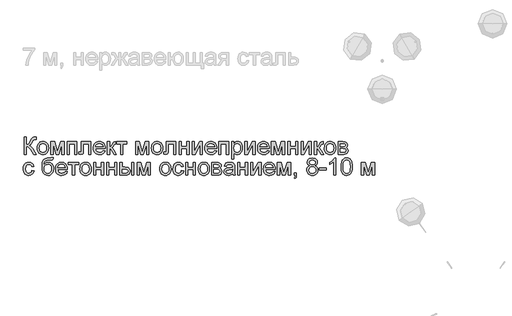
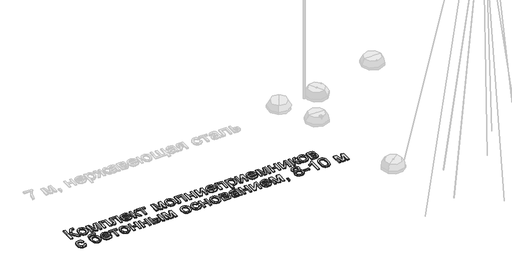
# One storey, part 41 of 124: 1 proxy.
"""IFC4 building model written with IfcOpenShell, lengths in millimetres."""

from ifc_helpers import new_model, si_unit, origin, origin_with_axes, place, context, project, spatial, polyline, outline, extrude, element, save

model = new_model("IFC4")

# Units and contexts
model_context = context("Model", 3, world=origin())
ifc_project = project(units=[si_unit("LENGTHUNIT", "METRE", prefix="MILLI")], contexts=[model_context])

# Site, building, storey
site = spatial("IfcSite", under=ifc_project)
building = spatial("IfcBuilding", under=site)
storey = spatial("IfcBuildingStorey", under=building, Name="Этаж 01", Elevation=0.0)

# Proxy
placement = place(None, origin())
element("IfcBuildingElementProxy", 1, Name="300", ObjectType="300", at=placement, inside=storey, context=model_context, shape_type="SweptSolid", body=[
    extrude(outline(polyline([(10399.8220677, -66773.1294316), (10437.493184, -66773.1294316), (10437.493184, -66904.9783386), (10462.9966033, -66902.4859381), (10479.6156724, -66895.0087366), (10493.0525623, -66877.4147801), (10509.0094439, -66844.572115), (10529.7947766, -66802.4496266), (10539.819561, -66791.0360877), (10553.3392243, -66781.5907174), (10569.3880763, -66775.244753), (10587.0004268, -66773.1294316), (10611.7220969, -66773.5708899), (10611.7220969, -66811.2420063), (10603.4079638, -66811.0212771), (10595.0938307, -66810.8005479), (10577.8401652, -66813.0630221), (10565.6632711, -66819.8504449), (10555.1786343, -66834.1058723), (10543.2960458, -66858.6252072), (10528.7187218, -66889.1594128), (10516.6246012, -66905.8612554), (10490.6153441, -66921.459452), (10505.2064637, -66927.6674607), (10519.6964158, -66938.4923884), (10548.3728173, -66973.9930009), (10611.7220969, -67074.498362), (10568.0177159, -67074.498362), (10514.4540974, -66989.5911975), (10493.7699322, -66962.3587328), (10476.7461929, -66945.2614171), (10459.3361775, -66936.2391112), (10437.493184, -66933.2316759), (10437.493184, -67074.498362), (10399.8220677, -67074.498362), (10399.8220677, -66773.1294316)])), origin_with_axes(), (0.0, 0.0, 1.0), 20.0),
    extrude(outline(polyline([(10630.5576551, -66963.8394579), (10632.5948016, -66935.1768519), (10638.7062413, -66910.4781745), (10648.891974, -66889.7434255), (10663.1519998, -66872.972605), (10677.5085947, -66862.2534434), (10693.3551116, -66854.5968994), (10710.6915507, -66850.002973), (10729.5179118, -66848.4716642), (10750.3009452, -66850.336366), (10769.0928174, -66855.9304716), (10785.8935283, -66865.2539809), (10800.7030778, -66878.306894), (10812.7903006, -66894.6477523), (10821.4240312, -66913.8350977), (10826.6042696, -66935.8689299), (10828.3310157, -66960.7492491), (10825.2775951, -66998.8066415), (10816.1173334, -67027.7773486), (10801.1169451, -67049.4731893), (10780.5431445, -67065.7059823), (10756.106583, -67075.8319342), (10729.5179118, -67079.2072515), (10708.4313757, -67077.3494475), (10689.4647595, -67071.7760352), (10672.6180634, -67062.4870149), (10657.8912873, -67049.4823863), (10645.9328232, -67032.9828788), (10637.3910631, -67013.2092216), (10632.2660071, -66990.1614146), (10630.5576551, -66963.8394579)]), holes=[polyline([(10668.2287714, -66963.7658815), (10672.588173, -66997.8593454), (10685.6663779, -67022.1487541), (10705.3480647, -67036.6892899), (10729.5179118, -67041.5361352), (10753.5773943, -67036.6616988), (10773.2222928, -67022.0383895), (10786.3004977, -66997.427084), (10790.6598994, -66962.5886591), (10786.2729066, -66929.4884766), (10773.1119282, -66905.5301616), (10753.4394385, -66890.9896258), (10729.5179118, -66886.1427805), (10705.3480647, -66890.9712317), (10685.6663779, -66905.4565852), (10672.588173, -66929.6908117), (10668.2287714, -66963.7658815)])]), origin_with_axes(), (0.0, 0.0, 1.0), 20.0),
    extrude(outline(polyline([(10870.7110215, -66853.1805537), (10935.5318291, -66853.1805537), (10985.490204, -67030.3525226), (11039.3481281, -66853.1805537), (11101.4466089, -66853.1805537), (11101.4466089, -67074.498362), (11063.7754926, -67074.498362), (11063.7754926, -66896.2963235), (11009.6232629, -67074.498362), (10960.1799227, -67074.498362), (10908.3821378, -66887.7614613), (10908.3821378, -67074.498362), (10870.7110215, -67074.498362), (10870.7110215, -66853.1805537)])), origin_with_axes(), (0.0, 0.0, 1.0), 20.0),
    extrude(outline(polyline([(11157.9532834, -66853.1805537), (11327.4733067, -66853.1805537), (11327.4733067, -67074.498362), (11289.8021904, -67074.498362), (11289.8021904, -66890.85167), (11195.6243997, -66890.85167), (11195.6243997, -67074.498362), (11157.9532834, -67074.498362), (11157.9532834, -66853.1805537)])), origin_with_axes(), (0.0, 0.0, 1.0), 20.0),
    extrude(outline(polyline([(11402.8155393, -66853.1805537), (11572.3355627, -66853.1805537), (11572.3355627, -67074.2776328), (11534.6644464, -67074.2776328), (11534.6644464, -66890.85167), (11440.4866556, -66890.85167), (11440.4866556, -66996.4338026), (11437.9482699, -67045.1413788), (11433.1933951, -67056.1686416), (11424.0055423, -67065.7059823), (11410.0628146, -67072.3002671), (11391.0433155, -67074.498362), (11360.4355335, -67072.5853756), (11360.4355335, -67036.8272457), (11377.2845289, -67036.8272457), (11394.3174653, -67034.5095891), (11401.1232822, -67027.1519492), (11402.8155393, -66994.3000871), (11402.8155393, -66853.1805537)])), origin_with_axes(), (0.0, 0.0, 1.0), 20.0),
    extrude(outline(polyline([(11783.7941335, -67008.5739085), (11820.7294859, -67013.282798), (11807.4213547, -67041.1130709), (11786.1853665, -67061.9167978), (11757.4997679, -67074.8846381), (11721.8428056, -67079.2072515), (11698.4685033, -67077.3425497), (11677.6417838, -67071.7484441), (11659.3626472, -67062.4249348), (11643.6310934, -67049.3720217), (11630.9805513, -67032.9529884), (11621.9444498, -67013.5311184), (11616.5227889, -66991.1064115), (11614.7155686, -66965.6788678), (11616.541183, -66939.3891007), (11622.0180262, -66916.2171336), (11631.1460982, -66896.1629663), (11643.925399, -66879.226599), (11659.6155661, -66865.771315), (11677.4762369, -66856.1603979), (11697.5074116, -66850.3938476), (11719.70909, -66848.4716642), (11741.1956978, -66850.3892491), (11760.6267649, -66856.1420038), (11778.0022914, -66865.7299283), (11793.3222772, -66879.1530226), (11805.8279658, -66896.0526017), (11814.7606005, -66916.0699808), (11820.1201813, -66939.2051598), (11821.9067082, -66965.4581386), (11821.6859791, -66975.6116817), (11652.3866849, -66975.6116817), (11658.9073932, -67003.8098366), (11674.0549344, -67024.5399871), (11695.916322, -67037.2870982), (11722.5785696, -67041.5361352), (11742.6281383, -67039.5679666), (11759.5139219, -67033.6634605), (11773.2359203, -67023.4547352), (11783.7941335, -67008.5739085)]), holes=[polyline([(11652.3866849, -66937.9405654), (11784.2355919, -66937.9405654), (11779.1404263, -66918.0381495), (11769.1524301, -66903.8011162), (11747.189875, -66890.5573644), (11719.5619372, -66886.1427805), (11694.1688825, -66889.6652506), (11673.1720176, -66900.2326609), (11658.5762994, -66916.7045772), (11652.3866849, -66937.9405654)])]), origin_with_axes(), (0.0, 0.0, 1.0), 20.0),
    extrude(outline(polyline([(11859.5778246, -66853.1805537), (11897.2489409, -66853.1805537), (11897.2489409, -66947.3583445), (11912.571226, -66945.6660873), (11922.4856457, -66940.5893158), (11931.2596313, -66927.3455639), (11943.1606139, -66901.1523659), (11960.340703, -66867.1232813), (11975.4974412, -66856.0500333), (12003.0518027, -66853.1805537), (12010.2622898, -66853.1805537), (12010.2622898, -66891.0723992), (12000.1087467, -66890.85167), (11981.714647, -66894.8247956), (11968.7652007, -66919.620042), (11953.5716743, -66946.4386395), (11932.2713068, -66959.5720267), (11944.2090775, -66964.874126), (11956.0364837, -66974.2321242), (11979.3602022, -67005.1158177), (12019.6800689, -67074.498362), (11976.8586046, -67074.498362), (11937.3480783, -67006.5873457), (11917.4824506, -66977.8557619), (11908.1934302, -66972.6410346), (11897.2489409, -66970.9027922), (11897.2489409, -67074.498362), (11859.5778246, -67074.498362), (11859.5778246, -66853.1805537)])), origin_with_axes(), (0.0, 0.0, 1.0), 20.0),
    extrude(outline(polyline([(12024.3889584, -66853.1805537), (12203.3267608, -66853.1805537), (12203.3267608, -66890.85167), (12132.6934178, -66890.85167), (12132.6934178, -67074.498362), (12095.0223015, -67074.498362), (12095.0223015, -66890.85167), (12024.3889584, -66890.85167), (12024.3889584, -66853.1805537)])), origin_with_axes(), (0.0, 0.0, 1.0), 20.0),
    extrude(outline(polyline([(12354.0112261, -66853.1805537), (12418.8320336, -66853.1805537), (12468.7904086, -67030.3525226), (12522.6483327, -66853.1805537), (12584.7468134, -66853.1805537), (12584.7468134, -67074.498362), (12547.0756971, -67074.498362), (12547.0756971, -66896.2963235), (12492.9234675, -67074.498362), (12443.4801273, -67074.498362), (12391.6823424, -66887.7614613), (12391.6823424, -67074.498362), (12354.0112261, -67074.498362), (12354.0112261, -66853.1805537)])), origin_with_axes(), (0.0, 0.0, 1.0), 20.0),
    extrude(outline(polyline([(12631.8357088, -66963.8394579), (12633.8728554, -66935.1768519), (12639.984295, -66910.4781745), (12650.1700278, -66889.7434255), (12664.4300536, -66872.972605), (12678.7866485, -66862.2534434), (12694.6331654, -66854.5968994), (12711.9696044, -66850.002973), (12730.7959655, -66848.4716642), (12751.578999, -66850.336366), (12770.3708712, -66855.9304716), (12787.171582, -66865.2539809), (12801.9811316, -66878.306894), (12814.0683544, -66894.6477523), (12822.702085, -66913.8350977), (12827.8823233, -66935.8689299), (12829.6090694, -66960.7492491), (12826.5556489, -66998.8066415), (12817.3953872, -67027.7773486), (12802.3949988, -67049.4731893), (12781.8211983, -67065.7059823), (12757.3846367, -67075.8319342), (12730.7959655, -67079.2072515), (12709.7094294, -67077.3494475), (12690.7428133, -67071.7760352), (12673.8961172, -67062.4870149), (12659.1693411, -67049.4823863), (12647.210877, -67032.9828788), (12638.6691169, -67013.2092216), (12633.5440608, -66990.1614146), (12631.8357088, -66963.8394579)]), holes=[polyline([(12669.5068251, -66963.7658815), (12673.8662268, -66997.8593454), (12686.9444317, -67022.1487541), (12706.6261184, -67036.6892899), (12730.7959655, -67041.5361352), (12754.855448, -67036.6616988), (12774.5003466, -67022.0383895), (12787.5785515, -66997.427084), (12791.9379531, -66962.5886591), (12787.5509603, -66929.4884766), (12774.389982, -66905.5301616), (12754.7174923, -66890.9896258), (12730.7959655, -66886.1427805), (12706.6261184, -66890.9712317), (12686.9444317, -66905.4565852), (12673.8662268, -66929.6908117), (12669.5068251, -66963.7658815)])]), origin_with_axes(), (0.0, 0.0, 1.0), 20.0),
    extrude(outline(polyline([(12890.8246334, -66853.1805537), (13060.3446568, -66853.1805537), (13060.3446568, -67074.2776328), (13022.6735405, -67074.2776328), (13022.6735405, -66890.85167), (12928.4957497, -66890.85167), (12928.4957497, -66996.4338026), (12925.957364, -67045.1413788), (12921.2024892, -67056.1686416), (12912.0146364, -67065.7059823), (12898.0719087, -67072.3002671), (12879.0524096, -67074.498362), (12848.4446276, -67072.5853756), (12848.4446276, -67036.8272457), (12865.293623, -67036.8272457), (12882.3265593, -67034.5095891), (12889.1323763, -67027.1519492), (12890.8246334, -66994.3000871), (12890.8246334, -66853.1805537)])), origin_with_axes(), (0.0, 0.0, 1.0), 20.0),
    extrude(outline(polyline([(13116.8513313, -66853.1805537), (13154.5224476, -66853.1805537), (13154.5224476, -66937.9405654), (13253.4091279, -66937.9405654), (13253.4091279, -66853.1805537), (13291.0802442, -66853.1805537), (13291.0802442, -67074.498362), (13253.4091279, -67074.498362), (13253.4091279, -66975.6116817), (13154.5224476, -66975.6116817), (13154.5224476, -67074.498362), (13116.8513313, -67074.498362), (13116.8513313, -66853.1805537)])), origin_with_axes(), (0.0, 0.0, 1.0), 20.0),
    extrude(outline(polyline([(13347.5869186, -66853.1805537), (13385.258035, -66853.1805537), (13385.258035, -67021.9648131), (13477.8171449, -66853.1805537), (13526.5247211, -66853.1805537), (13526.5247211, -67074.498362), (13488.8536048, -67074.498362), (13488.8536048, -66906.7441722), (13396.883106, -67074.498362), (13347.5869186, -67074.498362), (13347.5869186, -66853.1805537)])), origin_with_axes(), (0.0, 0.0, 1.0), 20.0),
    extrude(outline(polyline([(13737.9832919, -67008.5739085), (13774.9186442, -67013.282798), (13761.6105131, -67041.1130709), (13740.3745249, -67061.9167978), (13711.6889263, -67074.8846381), (13676.0319639, -67079.2072515), (13652.6576617, -67077.3425497), (13631.8309422, -67071.7484441), (13613.5518056, -67062.4249348), (13597.8202518, -67049.3720217), (13585.1697097, -67032.9529884), (13576.1336081, -67013.5311184), (13570.7119472, -66991.1064115), (13568.9047269, -66965.6788678), (13570.7303413, -66939.3891007), (13576.2071845, -66916.2171336), (13585.3352566, -66896.1629663), (13598.1145574, -66879.226599), (13613.8047245, -66865.771315), (13631.6653953, -66856.1603979), (13651.69657, -66850.3938476), (13673.8982484, -66848.4716642), (13695.3848561, -66850.3892491), (13714.8159233, -66856.1420038), (13732.1914498, -66865.7299283), (13747.5114356, -66879.1530226), (13760.0171242, -66896.0526017), (13768.9497589, -66916.0699808), (13774.3093397, -66939.2051598), (13776.0958666, -66965.4581386), (13775.8751374, -66975.6116817), (13606.5758433, -66975.6116817), (13613.0965516, -67003.8098366), (13628.2440928, -67024.5399871), (13650.1054803, -67037.2870982), (13676.7677279, -67041.5361352), (13696.8172967, -67039.5679666), (13713.7030802, -67033.6634605), (13727.4250787, -67023.4547352), (13737.9832919, -67008.5739085)]), holes=[polyline([(13606.5758433, -66937.9405654), (13738.4247503, -66937.9405654), (13733.3295847, -66918.0381495), (13723.3415885, -66903.8011162), (13701.3790334, -66890.5573644), (13673.7510956, -66886.1427805), (13648.3580409, -66889.6652506), (13627.361176, -66900.2326609), (13612.7654578, -66916.7045772), (13606.5758433, -66937.9405654)])]), origin_with_axes(), (0.0, 0.0, 1.0), 20.0),
    extrude(outline(polyline([(13813.7669829, -66853.1805537), (13983.2870063, -66853.1805537), (13983.2870063, -67074.498362), (13945.61589, -67074.498362), (13945.61589, -66890.85167), (13851.4380992, -66890.85167), (13851.4380992, -67074.498362), (13813.7669829, -67074.498362), (13813.7669829, -66853.1805537)])), origin_with_axes(), (0.0, 0.0, 1.0), 20.0),
    extrude(outline(polyline([(14039.7936808, -67159.2583737), (14039.7936808, -66853.1805537), (14077.4647971, -66853.1805537), (14077.4647971, -66890.115906), (14089.7520557, -66871.8965502), (14103.5108423, -66858.8827246), (14119.5504973, -66851.0744293), (14138.6803611, -66848.4716642), (14164.1561892, -66852.1136959), (14186.431444, -66863.0397912), (14204.5680264, -66880.5877623), (14217.6278372, -66904.0954218), (14225.518906, -66931.8521184), (14228.1492623, -66962.1472007), (14225.1786152, -66994.3644664), (14216.2666739, -67023.1788237), (14201.6985468, -67047.1279416), (14181.7593427, -67064.7494891), (14158.5367918, -67075.5928109), (14134.1186243, -67079.2072515), (14116.8005794, -67076.7884274), (14101.3403386, -67069.5319551), (14088.1057838, -67058.5782687), (14077.4647971, -67045.0678024), (14077.4647971, -67159.2583737), (14039.7936808, -67159.2583737)]), holes=[polyline([(14077.4647971, -66965.6052914), (14081.5390902, -66999.3768586), (14093.7619695, -67022.9948827), (14111.7973843, -67036.9008221), (14133.3092839, -67041.5361352), (14155.1706715, -67036.7352752), (14173.6659388, -67022.3326951), (14186.2750942, -66997.8501483), (14190.478146, -66962.8093883), (14186.3762617, -66929.2217621), (14174.070609, -66905.2726442), (14156.0627853, -66890.9252464), (14134.8543883, -66886.1427805), (14113.5632179, -66891.2287491), (14094.8656154, -66906.4866548), (14081.8150017, -66931.4382511), (14077.4647971, -66965.6052914)])]), origin_with_axes(), (0.0, 0.0, 1.0), 20.0),
    extrude(outline(polyline([(14270.5292681, -66853.1805537), (14308.2003845, -66853.1805537), (14308.2003845, -67021.9648131), (14400.7594944, -66853.1805537), (14449.4670706, -66853.1805537), (14449.4670706, -67074.498362), (14411.7959543, -67074.498362), (14411.7959543, -66906.7441722), (14319.8254555, -67074.498362), (14270.5292681, -67074.498362), (14270.5292681, -66853.1805537)])), origin_with_axes(), (0.0, 0.0, 1.0), 20.0),
    extrude(outline(polyline([(14660.9256414, -67008.5739085), (14697.8609937, -67013.282798), (14684.5528626, -67041.1130709), (14663.3168744, -67061.9167978), (14634.6312758, -67074.8846381), (14598.9743134, -67079.2072515), (14575.6000112, -67077.3425497), (14554.7732917, -67071.7484441), (14536.4941551, -67062.4249348), (14520.7626013, -67049.3720217), (14508.1120592, -67032.9529884), (14499.0759576, -67013.5311184), (14493.6542967, -66991.1064115), (14491.8470764, -66965.6788678), (14493.6726908, -66939.3891007), (14499.149534, -66916.2171336), (14508.2776061, -66896.1629663), (14521.0569069, -66879.226599), (14536.747074, -66865.771315), (14554.6077448, -66856.1603979), (14574.6389195, -66850.3938476), (14596.8405979, -66848.4716642), (14618.3272056, -66850.3892491), (14637.7582728, -66856.1420038), (14655.1337993, -66865.7299283), (14670.4537851, -66879.1530226), (14682.9594737, -66896.0526017), (14691.8921084, -66916.0699808), (14697.2516892, -66939.2051598), (14699.0382161, -66965.4581386), (14698.8174869, -66975.6116817), (14529.5181928, -66975.6116817), (14536.0389011, -67003.8098366), (14551.1864423, -67024.5399871), (14573.0478298, -67037.2870982), (14599.7100774, -67041.5361352), (14619.7596462, -67039.5679666), (14636.6454297, -67033.6634605), (14650.3674282, -67023.4547352), (14660.9256414, -67008.5739085)]), holes=[polyline([(14529.5181928, -66937.9405654), (14661.3670998, -66937.9405654), (14656.2719342, -66918.0381495), (14646.283938, -66903.8011162), (14624.3213829, -66890.5573644), (14596.6934451, -66886.1427805), (14571.3003904, -66889.6652506), (14550.3035255, -66900.2326609), (14535.7078073, -66916.7045772), (14529.5181928, -66937.9405654)])]), origin_with_axes(), (0.0, 0.0, 1.0), 20.0),
    extrude(outline(polyline([(14736.7093324, -66853.1805537), (14801.53014, -66853.1805537), (14851.4885149, -67030.3525226), (14905.346439, -66853.1805537), (14967.4449198, -66853.1805537), (14967.4449198, -67074.498362), (14929.7738035, -67074.498362), (14929.7738035, -66896.2963235), (14875.6215738, -67074.498362), (14826.1782337, -67074.498362), (14774.3804487, -66887.7614613), (14774.3804487, -67074.498362), (14736.7093324, -67074.498362), (14736.7093324, -66853.1805537)])), origin_with_axes(), (0.0, 0.0, 1.0), 20.0),
    extrude(outline(polyline([(15023.9515943, -66853.1805537), (15061.6227106, -66853.1805537), (15061.6227106, -66937.9405654), (15160.5093909, -66937.9405654), (15160.5093909, -66853.1805537), (15198.1805072, -66853.1805537), (15198.1805072, -67074.498362), (15160.5093909, -67074.498362), (15160.5093909, -66975.6116817), (15061.6227106, -66975.6116817), (15061.6227106, -67074.498362), (15023.9515943, -67074.498362), (15023.9515943, -66853.1805537)])), origin_with_axes(), (0.0, 0.0, 1.0), 20.0),
    extrude(outline(polyline([(15254.6871816, -66853.1805537), (15292.3582979, -66853.1805537), (15292.3582979, -67021.9648131), (15384.9174079, -66853.1805537), (15433.6249841, -66853.1805537), (15433.6249841, -67074.498362), (15395.9538678, -67074.498362), (15395.9538678, -66906.7441722), (15303.983369, -67074.498362), (15254.6871816, -67074.498362), (15254.6871816, -66853.1805537)])), origin_with_axes(), (0.0, 0.0, 1.0), 20.0),
    extrude(outline(polyline([(15490.1316586, -66853.1805537), (15527.8027749, -66853.1805537), (15527.8027749, -66947.3583445), (15543.12506, -66945.6660873), (15553.0394797, -66940.5893158), (15561.8134653, -66927.3455639), (15573.7144479, -66901.1523659), (15590.894537, -66867.1232813), (15606.0512752, -66856.0500333), (15633.6056367, -66853.1805537), (15640.8161238, -66853.1805537), (15640.8161238, -66891.0723992), (15630.6625807, -66890.85167), (15612.268481, -66894.8247956), (15599.3190347, -66919.620042), (15584.1255083, -66946.4386395), (15562.8251408, -66959.5720267), (15574.7629115, -66964.874126), (15586.5903177, -66974.2321242), (15609.9140362, -67005.1158177), (15650.2339029, -67074.498362), (15607.4124386, -67074.498362), (15567.9019123, -67006.5873457), (15548.0362846, -66977.8557619), (15538.7472642, -66972.6410346), (15527.8027749, -66970.9027922), (15527.8027749, -67074.498362), (15490.1316586, -67074.498362), (15490.1316586, -66853.1805537)])), origin_with_axes(), (0.0, 0.0, 1.0), 20.0),
    extrude(outline(polyline([(15664.3605715, -66963.8394579), (15666.397718, -66935.1768519), (15672.5091577, -66910.4781745), (15682.6948904, -66889.7434255), (15696.9549162, -66872.972605), (15711.3115111, -66862.2534434), (15727.158028, -66854.5968994), (15744.4944671, -66850.002973), (15763.3208282, -66848.4716642), (15784.1038616, -66850.336366), (15802.8957338, -66855.9304716), (15819.6964447, -66865.2539809), (15834.5059942, -66878.306894), (15846.593217, -66894.6477523), (15855.2269476, -66913.8350977), (15860.407186, -66935.8689299), (15862.1339321, -66960.7492491), (15859.0805115, -66998.8066415), (15849.9202498, -67027.7773486), (15834.9198615, -67049.4731893), (15814.3460609, -67065.7059823), (15789.9094994, -67075.8319342), (15763.3208282, -67079.2072515), (15742.2342921, -67077.3494475), (15723.2676759, -67071.7760352), (15706.4209798, -67062.4870149), (15691.6942037, -67049.4823863), (15679.7357396, -67032.9828788), (15671.1939795, -67013.2092216), (15666.0689235, -66990.1614146), (15664.3605715, -66963.8394579)]), holes=[polyline([(15702.0316878, -66963.7658815), (15706.3910894, -66997.8593454), (15719.4692943, -67022.1487541), (15739.1509811, -67036.6892899), (15763.3208282, -67041.5361352), (15787.3803107, -67036.6616988), (15807.0252092, -67022.0383895), (15820.1034141, -66997.427084), (15824.4628158, -66962.5886591), (15820.075823, -66929.4884766), (15806.9148446, -66905.5301616), (15787.2423549, -66890.9896258), (15763.3208282, -66886.1427805), (15739.1509811, -66890.9712317), (15719.4692943, -66905.4565852), (15706.3910894, -66929.6908117), (15702.0316878, -66963.7658815)])]), origin_with_axes(), (0.0, 0.0, 1.0), 20.0),
    extrude(outline(polyline([(15904.5139379, -66853.1805537), (15987.508116, -66853.1805537), (16014.1887577, -66854.4405495), (16033.0151188, -66858.220537), (16046.865876, -66865.3574477), (16058.6197057, -66876.6882132), (16066.6487302, -66891.4494783), (16069.3250718, -66908.8778878), (16067.706391, -66922.9217829), (16062.8503486, -66935.0342976), (16054.7385507, -66945.2706141), (16043.3526029, -66953.6859148), (16057.2953305, -66961.5126042), (16068.6628842, -66974.1033655), (16076.2228592, -66990.4649173), (16078.7428508, -67009.6039781), (16072.3600982, -67038.3171678), (16057.1849659, -67058.5322834), (16033.1622716, -67070.5068424), (16000.2368331, -67074.498362), (15904.5139379, -67074.498362), (15904.5139379, -66853.1805537)]), holes=[polyline([(15942.1850542, -66937.9405654), (15979.4147121, -66937.9405654), (16010.1328587, -66936.027579), (16025.0688677, -66928.3756335), (16030.0076835, -66922.0480632), (16031.6539555, -66914.5432705), (16028.7660818, -66903.3044755), (16020.1024608, -66896.0755943), (16004.4490819, -66892.1576511), (15980.5919345, -66890.85167), (15942.1850542, -66890.85167), (15942.1850542, -66937.9405654)]), polyline([(15942.1850542, -67036.8272457), (15988.3910328, -67036.8272457), (16013.5725554, -67035.1257915), (16029.3730871, -67030.0214288), (16037.8527671, -67020.7416055), (16041.0717345, -67006.5137693), (16039.4622508, -66997.0867932), (16034.6337996, -66988.3771869), (16027.2209774, -66981.562173), (16017.8583806, -66977.8189737), (15984.7122129, -66975.6116817), (15942.1850542, -66975.6116817), (15942.1850542, -67036.8272457)])]), origin_with_axes(), (0.0, 0.0, 1.0), 20.0),
    extrude(outline(polyline([(10536.3798643, -67360.3716934), (10574.0509806, -67365.0805829), (10563.5479496, -67398.5854356), (10543.8110806, -67423.904914), (10516.6981776, -67439.8250073), (10484.0670446, -67445.1317051), (10462.9391218, -67443.2807988), (10443.9954983, -67437.7280799), (10427.2361741, -67428.4735485), (10412.6611493, -67415.5172045), (10400.8636336, -67399.1027697), (10392.4368366, -67379.473966), (10387.3807585, -67356.6307933), (10385.6953991, -67330.5732518), (10388.5740757, -67297.050005), (10397.2101055, -67267.9965244), (10411.7414443, -67244.5348502), (10432.3060479, -67227.7870223), (10456.9081563, -67217.7438439), (10483.5520098, -67214.3961177), (10515.3829994, -67218.9946426), (10540.8312364, -67232.7902175), (10559.0873805, -67255.0470782), (10569.3420911, -67285.0294608), (10531.6709748, -67289.7383503), (10524.8375667, -67273.3032222), (10514.19658, -67261.5218013), (10500.3366258, -67254.4308758), (10483.8463154, -67252.067234), (10459.5017244, -67256.7209412), (10440.1787226, -67270.682063), (10427.5695672, -67294.7047572), (10423.3665154, -67329.5431822), (10427.4775967, -67364.8506567), (10439.8108406, -67388.9561244), (10458.7843545, -67402.8344727), (10482.8162458, -67407.4605888), (10502.3231886, -67404.5727151), (10518.3168583, -67395.9090941), (10529.9511264, -67381.2489966), (10536.3798643, -67360.3716934)])), origin_with_axes(), (0.0, 0.0, 1.0), 20.0),
    extrude(outline(polyline([(10880.1288006, -67134.3449956), (10913.0910274, -67134.3449956), (10909.522572, -67152.2516517), (10903.3789427, -67163.738767), (10894.8624745, -67170.5353868), (10884.1755025, -67174.3705566), (10838.0431003, -67176.7250014), (10799.7373876, -67178.8955052), (10775.9078314, -67185.4070165), (10761.652404, -67196.7009937), (10752.0690781, -67213.2188953), (10746.4312865, -67235.0894799), (10744.0124624, -67262.4415063), (10759.1600035, -67241.3986561), (10776.6435954, -67226.3890707), (10796.4816319, -67217.394356), (10818.6925074, -67214.3961177), (10839.2157242, -67216.3022063), (10857.890334, -67222.0204721), (10874.7163367, -67231.550915), (10889.6937325, -67244.8935351), (10901.9901882, -67261.4873123), (10910.7733708, -67280.7712267), (10916.0432804, -67302.7452781), (10917.7999169, -67327.4094666), (10914.314235, -67363.3699316), (10903.8571893, -67392.2302742), (10888.6176776, -67414.6618788), (10870.7845979, -67431.3361303), (10848.1966434, -67441.6828114), (10818.6925074, -67445.1317051), (10784.691014, -67440.68953), (10759.2059888, -67427.3630047), (10740.4532041, -67407.1111009), (10726.6484322, -67381.8927901), (10718.1503581, -67343.9181712), (10715.3176668, -67285.3973428), (10717.1041937, -67245.7327659), (10722.4637745, -67213.1177278), (10731.3964092, -67187.5522284), (10743.9020978, -67169.0362677), (10760.1141975, -67155.9189753), (10780.1660655, -67146.5494807), (10804.0577018, -67140.927784), (10831.7891064, -67139.0538851), (10873.7276539, -67138.2077565), (10880.1288006, -67134.3449956)]), holes=[polyline([(10880.1288006, -67326.2322442), (10876.0453105, -67296.5901525), (10863.79484, -67272.8525667), (10844.1131533, -67257.2635672), (10817.7360142, -67252.067234), (10790.2368351, -67257.5578728), (10779.1497914, -67264.4211713), (10769.8377784, -67274.0297891), (10757.2010319, -67299.6803612), (10752.9887831, -67332.7069673), (10757.6424903, -67364.721898), (10771.603612, -67388.2203604), (10792.3889447, -67402.6505317), (10817.515285, -67407.4605888), (10842.770384, -67401.8963736), (10862.7647704, -67385.2037281), (10875.7877931, -67359.3324268), (10880.1288006, -67326.2322442)])]), origin_with_axes(), (0.0, 0.0, 1.0), 20.0),
    extrude(outline(polyline([(11119.8407087, -67374.498362), (11156.776061, -67379.2072515), (11143.4679298, -67407.0375245), (11122.2319416, -67427.8412513), (11093.546343, -67440.8090916), (11057.8893807, -67445.1317051), (11034.5150784, -67443.2670032), (11013.6883589, -67437.6728976), (10995.4092223, -67428.3493883), (10979.6776685, -67415.2964753), (10967.0271264, -67398.877442), (10957.9910249, -67379.4555719), (10952.569364, -67357.030865), (10950.7621437, -67331.6033214), (10952.5877581, -67305.3135543), (10958.0646013, -67282.1415871), (10967.1926733, -67262.0874199), (10979.9719741, -67245.1510525), (10995.6621412, -67231.6957685), (11013.522812, -67222.0848514), (11033.5539867, -67216.3183011), (11055.7556651, -67214.3961177), (11077.2422729, -67216.3137026), (11096.67334, -67222.0664573), (11114.0488665, -67231.6543818), (11129.3688523, -67245.0774761), (11141.8745409, -67261.9770553), (11150.8071756, -67281.9944343), (11156.1667564, -67305.1296133), (11157.9532834, -67331.3825922), (11157.7325542, -67341.5361352), (10988.43326, -67341.5361352), (10994.9539683, -67369.7342902), (11010.1015095, -67390.4644406), (11031.9628971, -67403.2115517), (11058.6251447, -67407.4605888), (11078.6747134, -67405.4924201), (11095.560497, -67399.5879141), (11109.2824954, -67389.3791887), (11119.8407087, -67374.498362)]), holes=[polyline([(10988.43326, -67303.8650189), (11120.282167, -67303.8650189), (11115.1870014, -67283.962603), (11105.1990052, -67269.7255698), (11083.2364501, -67256.4818179), (11055.6085123, -67252.067234), (11030.2154576, -67255.5897041), (11009.2185927, -67266.1571144), (10994.6228745, -67282.6290308), (10988.43326, -67303.8650189)])]), origin_with_axes(), (0.0, 0.0, 1.0), 20.0),
    extrude(outline(polyline([(11176.7888415, -67219.1050072), (11355.726644, -67219.1050072), (11355.726644, -67256.7761235), (11285.0933009, -67256.7761235), (11285.0933009, -67440.4228155), (11247.4221846, -67440.4228155), (11247.4221846, -67256.7761235), (11176.7888415, -67256.7761235), (11176.7888415, -67219.1050072)])), origin_with_axes(), (0.0, 0.0, 1.0), 20.0),
    extrude(outline(polyline([(11379.2710917, -67329.7639114), (11381.3082382, -67301.1013054), (11387.4196778, -67276.402628), (11397.6054106, -67255.667879), (11411.8654364, -67238.8970586), (11426.2220313, -67228.1778969), (11442.0685482, -67220.5213529), (11459.4049873, -67215.9274265), (11478.2313484, -67214.3961177), (11499.0143818, -67216.2608196), (11517.806254, -67221.8549252), (11534.6069649, -67231.1784345), (11549.4165144, -67244.2313475), (11561.5037372, -67260.5722059), (11570.1374678, -67279.7595512), (11575.3177061, -67301.7933834), (11577.0444523, -67326.6737026), (11573.9910317, -67364.731095), (11564.83077, -67393.7018022), (11549.8303817, -67415.3976428), (11529.2565811, -67431.6304359), (11504.8200196, -67441.7563878), (11478.2313484, -67445.1317051), (11457.1448122, -67443.273901), (11438.1781961, -67437.7004888), (11421.3315, -67428.4114684), (11406.6047239, -67415.4068399), (11394.6462598, -67398.9073324), (11386.1044997, -67379.1336751), (11380.9794437, -67356.0858681), (11379.2710917, -67329.7639114)]), holes=[polyline([(11416.942208, -67329.690335), (11421.3016096, -67363.7837989), (11434.3798145, -67388.0732076), (11454.0615013, -67402.6137435), (11478.2313484, -67407.4605888), (11502.2908308, -67402.5861523), (11521.9357294, -67387.962843), (11535.0139343, -67363.3515375), (11539.373336, -67328.5131126), (11534.9863432, -67295.4129301), (11521.8253648, -67271.4546152), (11502.1528751, -67256.9140793), (11478.2313484, -67252.067234), (11454.0615013, -67256.8956852), (11434.3798145, -67271.3810388), (11421.3016096, -67295.6152652), (11416.942208, -67329.690335)])]), origin_with_axes(), (0.0, 0.0, 1.0), 20.0),
    extrude(outline(polyline([(11619.4244581, -67219.1050072), (11657.0955744, -67219.1050072), (11657.0955744, -67303.8650189), (11755.9822547, -67303.8650189), (11755.9822547, -67219.1050072), (11793.653371, -67219.1050072), (11793.653371, -67440.4228155), (11755.9822547, -67440.4228155), (11755.9822547, -67341.5361352), (11657.0955744, -67341.5361352), (11657.0955744, -67440.4228155), (11619.4244581, -67440.4228155), (11619.4244581, -67219.1050072)])), origin_with_axes(), (0.0, 0.0, 1.0), 20.0),
    extrude(outline(polyline([(11850.1600455, -67219.1050072), (11887.8311618, -67219.1050072), (11887.8311618, -67303.8650189), (11986.7178421, -67303.8650189), (11986.7178421, -67219.1050072), (12024.3889584, -67219.1050072), (12024.3889584, -67440.4228155), (11986.7178421, -67440.4228155), (11986.7178421, -67341.5361352), (11887.8311618, -67341.5361352), (11887.8311618, -67440.4228155), (11850.1600455, -67440.4228155), (11850.1600455, -67219.1050072)])), origin_with_axes(), (0.0, 0.0, 1.0), 20.0),
    extrude(outline(polyline([(12288.0867725, -67219.1050072), (12325.7578888, -67219.1050072), (12325.7578888, -67440.4228155), (12288.0867725, -67440.4228155), (12288.0867725, -67219.1050072)])), origin_with_axes(), (0.0, 0.0, 1.0), 20.0),
    extrude(outline(polyline([(12080.8956329, -67219.1050072), (12118.5667492, -67219.1050072), (12118.5667492, -67299.1561294), (12165.1406097, -67299.1561294), (12205.3960971, -67303.874216), (12221.6127953, -67309.7718242), (12235.2221298, -67318.0284757), (12245.989576, -67328.359062), (12253.6806089, -67340.4784745), (12258.2952287, -67354.3867132), (12259.8334353, -67370.0837781), (12254.6738903, -67397.0403313), (12239.1952554, -67419.7846356), (12227.3333603, -67428.8138393), (12212.385855, -67435.2632706), (12173.2340136, -67440.4228155), (12080.8956329, -67440.4228155), (12080.8956329, -67219.1050072)]), holes=[polyline([(12118.5667492, -67402.7516992), (12157.2679351, -67402.7516992), (12187.2687118, -67400.7743335), (12207.22631, -67394.8422363), (12218.4283168, -67384.7162844), (12222.162319, -67370.1573545), (12219.394007, -67357.8517017), (12211.0890709, -67346.9807888), (12193.3295676, -67339.3656315), (12162.1975538, -67336.8272457), (12118.5667492, -67336.8272457), (12118.5667492, -67402.7516992)])]), origin_with_axes(), (0.0, 0.0, 1.0), 20.0),
    extrude(outline(polyline([(12382.2645633, -67219.1050072), (12447.0853709, -67219.1050072), (12497.0437458, -67396.2769761), (12550.9016699, -67219.1050072), (12613.0001507, -67219.1050072), (12613.0001507, -67440.4228155), (12575.3290344, -67440.4228155), (12575.3290344, -67262.2207771), (12521.1768047, -67440.4228155), (12471.7334645, -67440.4228155), (12419.9356796, -67253.6859148), (12419.9356796, -67440.4228155), (12382.2645633, -67440.4228155), (12382.2645633, -67219.1050072)])), origin_with_axes(), (0.0, 0.0, 1.0), 20.0),
    extrude(outline(polyline([(12777.8112845, -67329.7639114), (12779.8484311, -67301.1013054), (12785.9598707, -67276.402628), (12796.1456035, -67255.667879), (12810.4056293, -67238.8970586), (12824.7622242, -67228.1778969), (12840.6087411, -67220.5213529), (12857.9451801, -67215.9274265), (12876.7715412, -67214.3961177), (12897.5545747, -67216.2608196), (12916.3464469, -67221.8549252), (12933.1471577, -67231.1784345), (12947.9567073, -67244.2313475), (12960.0439301, -67260.5722059), (12968.6776607, -67279.7595512), (12973.857899, -67301.7933834), (12975.5846451, -67326.6737026), (12972.5312246, -67364.731095), (12963.3709629, -67393.7018022), (12948.3705745, -67415.3976428), (12927.796774, -67431.6304359), (12903.3602124, -67441.7563878), (12876.7715412, -67445.1317051), (12855.6850051, -67443.273901), (12836.718389, -67437.7004888), (12819.8716929, -67428.4114684), (12805.1449168, -67415.4068399), (12793.1864527, -67398.9073324), (12784.6446926, -67379.1336751), (12779.5196365, -67356.0858681), (12777.8112845, -67329.7639114)]), holes=[polyline([(12815.4824008, -67329.690335), (12819.8418025, -67363.7837989), (12832.9200074, -67388.0732076), (12852.6016941, -67402.6137435), (12876.7715412, -67407.4605888), (12900.8310237, -67402.5861523), (12920.4759222, -67387.962843), (12933.5541272, -67363.3515375), (12937.9135288, -67328.5131126), (12933.526536, -67295.4129301), (12920.3655576, -67271.4546152), (12900.693068, -67256.9140793), (12876.7715412, -67252.067234), (12852.6016941, -67256.8956852), (12832.9200074, -67271.3810388), (12819.8418025, -67295.6152652), (12815.4824008, -67329.690335)])]), origin_with_axes(), (0.0, 0.0, 1.0), 20.0),
    extrude(outline(polyline([(13159.2313371, -67360.3716934), (13196.9024534, -67365.0805829), (13186.3994225, -67398.5854356), (13166.6625534, -67423.904914), (13139.5496504, -67439.8250073), (13106.9185174, -67445.1317051), (13085.7905946, -67443.2807988), (13066.8469711, -67437.7280799), (13050.0876469, -67428.4735485), (13035.5126221, -67415.5172045), (13023.7151064, -67399.1027697), (13015.2883095, -67379.473966), (13010.2322313, -67356.6307933), (13008.5468719, -67330.5732518), (13011.4255485, -67297.050005), (13020.0615783, -67267.9965244), (13034.5929171, -67244.5348502), (13055.1575207, -67227.7870223), (13079.7596291, -67217.7438439), (13106.4034826, -67214.3961177), (13138.2344722, -67218.9946426), (13163.6827093, -67232.7902175), (13181.9388533, -67255.0470782), (13192.1935639, -67285.0294608), (13154.5224476, -67289.7383503), (13147.6890395, -67273.3032222), (13137.0480528, -67261.5218013), (13123.1880986, -67254.4308758), (13106.6977882, -67252.067234), (13082.3531972, -67256.7209412), (13063.0301954, -67270.682063), (13050.42104, -67294.7047572), (13046.2179882, -67329.5431822), (13050.3290695, -67364.8506567), (13062.6623134, -67388.9561244), (13081.6358273, -67402.8344727), (13105.6677186, -67407.4605888), (13125.1746614, -67404.5727151), (13141.1683312, -67395.9090941), (13152.8025993, -67381.2489966), (13159.2313371, -67360.3716934)])), origin_with_axes(), (0.0, 0.0, 1.0), 20.0),
    extrude(outline(polyline([(13229.8646802, -67219.1050072), (13267.5357965, -67219.1050072), (13267.5357965, -67303.8650189), (13366.4224768, -67303.8650189), (13366.4224768, -67219.1050072), (13404.0935931, -67219.1050072), (13404.0935931, -67440.4228155), (13366.4224768, -67440.4228155), (13366.4224768, -67341.5361352), (13267.5357965, -67341.5361352), (13267.5357965, -67440.4228155), (13229.8646802, -67440.4228155), (13229.8646802, -67219.1050072)])), origin_with_axes(), (0.0, 0.0, 1.0), 20.0),
    extrude(outline(polyline([(13451.1824885, -67329.7639114), (13453.219635, -67301.1013054), (13459.3310747, -67276.402628), (13469.5168074, -67255.667879), (13483.7768333, -67238.8970586), (13498.1334281, -67228.1778969), (13513.9799451, -67220.5213529), (13531.3163841, -67215.9274265), (13550.1427452, -67214.3961177), (13570.9257787, -67216.2608196), (13589.7176508, -67221.8549252), (13606.5183617, -67231.1784345), (13621.3279113, -67244.2313475), (13633.4151341, -67260.5722059), (13642.0488646, -67279.7595512), (13647.229103, -67301.7933834), (13648.9558491, -67326.6737026), (13645.9024285, -67364.731095), (13636.7421669, -67393.7018022), (13621.7417785, -67415.3976428), (13601.1679779, -67431.6304359), (13576.7314164, -67441.7563878), (13550.1427452, -67445.1317051), (13529.0562091, -67443.273901), (13510.089593, -67437.7004888), (13493.2428968, -67428.4114684), (13478.5161207, -67415.4068399), (13466.5576566, -67398.9073324), (13458.0158965, -67379.1336751), (13452.8908405, -67356.0858681), (13451.1824885, -67329.7639114)]), holes=[polyline([(13488.8536048, -67329.690335), (13493.2130064, -67363.7837989), (13506.2912114, -67388.0732076), (13525.9728981, -67402.6137435), (13550.1427452, -67407.4605888), (13574.2022277, -67402.5861523), (13593.8471262, -67387.962843), (13606.9253311, -67363.3515375), (13611.2847328, -67328.5131126), (13606.89774, -67295.4129301), (13593.7367616, -67271.4546152), (13574.0642719, -67256.9140793), (13550.1427452, -67252.067234), (13525.9728981, -67256.8956852), (13506.2912114, -67271.3810388), (13493.2130064, -67295.6152652), (13488.8536048, -67329.690335)])]), origin_with_axes(), (0.0, 0.0, 1.0), 20.0),
    extrude(outline(polyline([(13691.3358549, -67219.1050072), (13774.3300331, -67219.1050072), (13801.0106748, -67220.3650031), (13819.8370359, -67224.1449906), (13833.687793, -67231.2819013), (13845.4416227, -67242.6126667), (13853.4706473, -67257.3739318), (13856.1469888, -67274.8023413), (13854.528308, -67288.8462365), (13849.6722657, -67300.9587512), (13841.5604677, -67311.1950677), (13830.1745199, -67319.6103683), (13844.1172475, -67327.4370578), (13855.4848012, -67340.0278191), (13863.0447762, -67356.3893708), (13865.5647679, -67375.5284316), (13859.1820152, -67404.2416213), (13844.0068829, -67424.4567369), (13819.9841887, -67436.4312959), (13787.0587501, -67440.4228155), (13691.3358549, -67440.4228155), (13691.3358549, -67219.1050072)]), holes=[polyline([(13729.0069712, -67303.8650189), (13766.2366292, -67303.8650189), (13796.9547758, -67301.9520326), (13811.8907848, -67294.3000871), (13816.8296005, -67287.9725167), (13818.4758725, -67280.467724), (13815.5879988, -67269.2289291), (13806.9243778, -67262.0000479), (13791.2709989, -67258.0821046), (13767.4138515, -67256.7761235), (13729.0069712, -67256.7761235), (13729.0069712, -67303.8650189)]), polyline([(13729.0069712, -67402.7516992), (13775.2129498, -67402.7516992), (13800.3944724, -67401.050245), (13816.1950041, -67395.9458823), (13824.6746841, -67386.666059), (13827.8936515, -67372.4382228), (13826.2841678, -67363.0112467), (13821.4557166, -67354.3016405), (13814.0428944, -67347.4866265), (13804.6802977, -67343.7434272), (13771.5341299, -67341.5361352), (13729.0069712, -67341.5361352), (13729.0069712, -67402.7516992)])]), origin_with_axes(), (0.0, 0.0, 1.0), 20.0),
    extrude(outline(polyline([(14053.9203494, -67412.1694783), (14035.9217228, -67427.602128), (14017.3896673, -67437.7004888), (13997.9011186, -67443.273901), (13977.0330124, -67445.1317051), (13945.5515107, -67440.6619388), (13922.3289597, -67427.2526401), (13908.009153, -67406.8903717), (13903.2358842, -67381.5616963), (13905.0385059, -67365.9451056), (13910.4463713, -67351.7632547), (13918.7880955, -67339.6231489), (13929.392294, -67330.1317934), (13955.7694331, -67317.7709583), (13988.3637778, -67312.1055756), (14026.8810227, -67306.1458873), (14053.6996202, -67299.1561294), (14053.9203494, -67290.7684199), (14051.3267813, -67273.9562127), (14043.5460771, -67262.9565411), (14026.1452587, -67254.7895608), (14001.9018353, -67252.067234), (13979.4610336, -67253.8790528), (13963.7892606, -67259.3145093), (13953.1022886, -67269.3668848), (13945.61589, -67285.0294608), (13907.9447737, -67280.3205712), (13914.4838762, -67259.7191795), (13924.2419461, -67243.5323717), (13938.1294914, -67231.1531426), (13957.0570201, -67221.9744868), (13980.2059946, -67216.29071), (14006.7578776, -67214.3961177), (14032.2245087, -67216.0699808), (14052.4120332, -67221.09157), (14067.6331508, -67228.642348), (14078.2005611, -67237.9037772), (14085.2087131, -67249.3541043), (14089.7520557, -67263.4715759), (14091.5914657, -67296.4338026), (14091.5914657, -67343.3019688), (14093.5044521, -67408.7481758), (14101.0092448, -67440.4228155), (14063.3381285, -67440.4228155), (14053.9203494, -67412.1694783)]), holes=[polyline([(14053.9203494, -67336.8272457), (13993.1462438, -67348.3787403), (13960.73584, -67354.4855815), (13946.0573484, -67364.4183953), (13940.9070005, -67378.9129459), (13943.7121007, -67390.1149527), (13952.1274013, -67399.2936085), (13965.9689614, -67405.4188437), (13985.0528399, -67407.4605888), (14005.2863496, -67405.2073115), (14023.1654146, -67398.4474799), (14037.6599652, -67388.4870749), (14047.7399319, -67376.6320776), (14052.2096981, -67364.4183953), (14053.6996202, -67347.4958236), (14053.9203494, -67336.8272457)])]), origin_with_axes(), (0.0, 0.0, 1.0), 20.0),
    extrude(outline(polyline([(14143.3892506, -67219.1050072), (14181.0603669, -67219.1050072), (14181.0603669, -67303.8650189), (14279.9470472, -67303.8650189), (14279.9470472, -67219.1050072), (14317.6181635, -67219.1050072), (14317.6181635, -67440.4228155), (14279.9470472, -67440.4228155), (14279.9470472, -67341.5361352), (14181.0603669, -67341.5361352), (14181.0603669, -67440.4228155), (14143.3892506, -67440.4228155), (14143.3892506, -67219.1050072)])), origin_with_axes(), (0.0, 0.0, 1.0), 20.0),
    extrude(outline(polyline([(14374.124838, -67219.1050072), (14411.7959543, -67219.1050072), (14411.7959543, -67387.8892666), (14504.3550643, -67219.1050072), (14553.0626404, -67219.1050072), (14553.0626404, -67440.4228155), (14515.3915241, -67440.4228155), (14515.3915241, -67272.6686257), (14423.4210253, -67440.4228155), (14374.124838, -67440.4228155), (14374.124838, -67219.1050072)])), origin_with_axes(), (0.0, 0.0, 1.0), 20.0),
    extrude(outline(polyline([(14764.5212113, -67374.498362), (14801.4565636, -67379.2072515), (14788.1484324, -67407.0375245), (14766.9124442, -67427.8412513), (14738.2268457, -67440.8090916), (14702.5698833, -67445.1317051), (14679.195581, -67443.2670032), (14658.3688616, -67437.6728976), (14640.0897249, -67428.3493883), (14624.3581711, -67415.2964753), (14611.707629, -67398.877442), (14602.6715275, -67379.4555719), (14597.2498666, -67357.030865), (14595.4426463, -67331.6033214), (14597.2682607, -67305.3135543), (14602.7451039, -67282.1415871), (14611.8731759, -67262.0874199), (14624.6524767, -67245.1510525), (14640.3426438, -67231.6957685), (14658.2033147, -67222.0848514), (14678.2344893, -67216.3183011), (14700.4361677, -67214.3961177), (14721.9227755, -67216.3137026), (14741.3538426, -67222.0664573), (14758.7293691, -67231.6543818), (14774.0493549, -67245.0774761), (14786.5550435, -67261.9770553), (14795.4876782, -67281.9944343), (14800.847259, -67305.1296133), (14802.633786, -67331.3825922), (14802.4130568, -67341.5361352), (14633.1137626, -67341.5361352), (14639.634471, -67369.7342902), (14654.7820121, -67390.4644406), (14676.6433997, -67403.2115517), (14703.3056473, -67407.4605888), (14723.355216, -67405.4924201), (14740.2409996, -67399.5879141), (14753.962998, -67389.3791887), (14764.5212113, -67374.498362)]), holes=[polyline([(14633.1137626, -67303.8650189), (14764.9626697, -67303.8650189), (14759.867504, -67283.962603), (14749.8795079, -67269.7255698), (14727.9169527, -67256.4818179), (14700.2890149, -67252.067234), (14674.8959602, -67255.5897041), (14653.8990953, -67266.1571144), (14639.3033772, -67282.6290308), (14633.1137626, -67303.8650189)])]), origin_with_axes(), (0.0, 0.0, 1.0), 20.0),
    extrude(outline(polyline([(14840.3049023, -67219.1050072), (14905.1257098, -67219.1050072), (14955.0840848, -67396.2769761), (15008.9420089, -67219.1050072), (15071.0404897, -67219.1050072), (15071.0404897, -67440.4228155), (15033.3693733, -67440.4228155), (15033.3693733, -67262.2207771), (14979.2171437, -67440.4228155), (14929.7738035, -67440.4228155), (14877.9760186, -67253.6859148), (14877.9760186, -67440.4228155), (14840.3049023, -67440.4228155), (14840.3049023, -67219.1050072)])), origin_with_axes(), (0.0, 0.0, 1.0), 20.0),
    extrude(outline(polyline([(15136.9649432, -67440.4228155), (15136.9649432, -67402.7516992), (15174.6360595, -67402.7516992), (15174.6360595, -67440.4228155), (15172.9438023, -67461.9715034), (15167.8670308, -67478.9400604), (15159.1114393, -67491.953886), (15146.3827223, -67501.6383795), (15136.9649432, -67487.5117109), (15145.1319235, -67480.6874999), (15150.7973062, -67471.2513267), (15155.7269249, -67440.4228155), (15136.9649432, -67440.4228155)])), origin_with_axes(), (0.0, 0.0, 1.0), 20.0),
    extrude(outline(polyline([(15408.4618556, -67274.4344593), (15388.2927252, -67264.5016454), (15374.1384655, -67251.0371644), (15365.7783471, -67234.3169277), (15362.991641, -67214.6168469), (15364.5091543, -67199.2531751), (15369.0616939, -67185.1678932), (15376.6492601, -67172.3610012), (15387.2718527, -67160.8324992), (15400.4190355, -67151.3043555), (15415.5803722, -67144.4985386), (15451.9455075, -67139.0538851), (15488.5313719, -67144.6272973), (15503.8582555, -67151.5940626), (15517.2077734, -67161.347534), (15528.0235041, -67173.1013637), (15535.749026, -67186.0692041), (15540.3843391, -67200.251055), (15541.9294435, -67215.6469165), (15539.1795256, -67234.7124009), (15530.9297718, -67251.147529), (15517.0882118, -67264.5292366), (15497.5628749, -67274.4344593), (15520.7486376, -67286.3814271), (15537.6252241, -67303.9753835), (15547.9167229, -67326.3702), (15551.3472226, -67352.7197479), (15549.6457683, -67371.5093208), (15544.5414056, -67388.7353952), (15536.0341345, -67404.3979712), (15524.1239549, -67418.4970486), (15509.4362663, -67430.1497108), (15492.5964679, -67438.473041), (15473.6045599, -67443.467039), (15452.4605422, -67445.1317051), (15431.3165246, -67443.4601413), (15412.3246166, -67438.4454498), (15395.4848182, -67430.0876307), (15380.7971296, -67418.386684), (15368.88695, -67404.1887383), (15360.3796789, -67388.3399221), (15355.2753162, -67370.8402354), (15353.5738619, -67351.6896783), (15357.1423173, -67324.3192579), (15367.8476834, -67301.8048798), (15385.1381371, -67284.9190962), (15408.4618556, -67274.4344593)]), holes=[polyline([(15400.6627573, -67215.7204929), (15404.0012864, -67232.1648181), (15414.0168738, -67245.2982053), (15430.4152137, -67253.906644), (15452.9020006, -67256.7761235), (15474.8645558, -67253.9250381), (15491.0145753, -67245.3717817), (15500.9473892, -67232.6798529), (15504.2583272, -67217.4127501), (15500.8370246, -67201.5662331), (15490.573117, -67188.460437), (15474.2023682, -67179.6588603), (15452.4605422, -67176.7250014), (15430.5807606, -67179.594481), (15414.237603, -67188.2029196), (15404.0564687, -67200.8212721), (15400.6627573, -67215.7204929)]), polyline([(15391.2449783, -67350.3653031), (15397.5357604, -67378.7290049), (15406.2453666, -67390.8967019), (15419.7926211, -67399.9557961), (15436.0162171, -67405.5843906), (15452.7548478, -67407.4605888), (15478.3962229, -67403.5150544), (15497.6364513, -67391.6784512), (15509.6661925, -67373.753401), (15513.6761062, -67351.5425255), (15509.5374338, -67328.954571), (15497.1214165, -67310.6340476), (15477.4397297, -67298.4939418), (15451.5040491, -67294.4472399), (15426.2213589, -67298.4387595), (15407.1742686, -67310.4133184), (15395.2273009, -67328.3843539), (15391.2449783, -67350.3653031)])]), origin_with_axes(), (0.0, 0.0, 1.0), 20.0),
    extrude(outline(polyline([(15574.8916702, -67350.9539143), (15574.8916702, -67313.282798), (15692.6139087, -67313.282798), (15692.6139087, -67350.9539143), (15574.8916702, -67350.9539143)])), origin_with_axes(), (0.0, 0.0, 1.0), 20.0),
    extrude(outline(polyline([(15866.8428216, -67440.4228155), (15829.1717053, -67440.4228155), (15829.1717053, -67205.5669498), (15793.4871518, -67230.9875957), (15753.8294727, -67250.0070948), (15753.8294727, -67214.3961177), (15783.4163822, -67198.3012804), (15809.0485602, -67179.1530226), (15829.2544788, -67158.7907541), (15842.5626099, -67139.0538851), (15866.8428216, -67139.0538851), (15866.8428216, -67440.4228155)])), origin_with_axes(), (0.0, 0.0, 1.0), 20.0),
    extrude(outline(polyline([(15956.3117228, -67292.1663715), (15959.0800349, -67243.9278449), (15967.3849709, -67205.4565852), (15981.1437575, -67176.1639814), (16000.2736213, -67155.4614221), (16024.9125179, -67143.1557693), (16055.1984031, -67139.0538851), (16078.411757, -67141.4819063), (16099.1970898, -67148.7659698), (16116.579514, -67160.6209671), (16129.5841426, -67176.7617896), (16139.4065918, -67197.0504816), (16147.2424783, -67221.3490874), (16152.3744322, -67252.2051898), (16154.0850835, -67292.1663715), (16151.3443626, -67340.1289866), (16143.1222, -67378.5082757), (16129.4461868, -67407.8284708), (16110.3439142, -67428.6138035), (16085.6498353, -67441.0022297), (16055.1984031, -67445.1317051), (16034.4498586, -67443.3382803), (16016.0557589, -67437.9580062), (16000.0161039, -67428.9908825), (15986.3308937, -67416.4369095), (15973.1975064, -67393.7431889), (15963.8165155, -67365.466859), (15958.187921, -67331.6079199), (15956.3117228, -67292.1663715)]), holes=[polyline([(15993.9828392, -67292.0927951), (15998.3974231, -67351.3493875), (16003.915653, -67371.6173861), (16011.6411749, -67385.6451865), (16031.3596499, -67402.0067382), (16055.1984031, -67407.4605888), (16079.0371564, -67401.9883441), (16098.7556314, -67385.5716101), (16106.4811533, -67371.5208171), (16111.9993832, -67351.257417), (16116.4139671, -67292.0927951), (16112.146536, -67234.1697749), (16106.8122471, -67213.9684549), (16099.3442426, -67199.6072615), (16079.6625558, -67182.4455664), (16054.7569448, -67176.7250014), (16031.1757089, -67181.7649847), (16012.2297861, -67196.8849347), (16004.2467468, -67212.5199195), (15998.5445759, -67233.5995578), (15993.9828392, -67292.0927951)])]), origin_with_axes(), (0.0, 0.0, 1.0), 20.0),
    extrude(outline(polyline([(16314.1873278, -67219.1050072), (16379.0081353, -67219.1050072), (16428.9665102, -67396.2769761), (16482.8244343, -67219.1050072), (16544.9229151, -67219.1050072), (16544.9229151, -67440.4228155), (16507.2517988, -67440.4228155), (16507.2517988, -67262.2207771), (16453.0995691, -67440.4228155), (16403.656229, -67440.4228155), (16351.8584441, -67253.6859148), (16351.8584441, -67440.4228155), (16314.1873278, -67440.4228155), (16314.1873278, -67219.1050072)])), origin_with_axes(), (0.0, 0.0, 1.0), 20.0),
])

save(model, "model.ifc")
